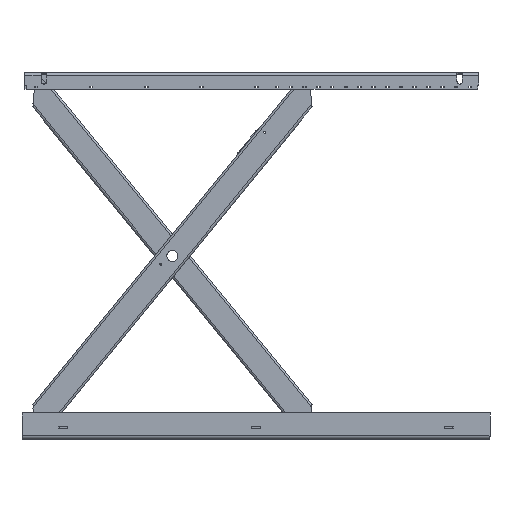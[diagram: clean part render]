
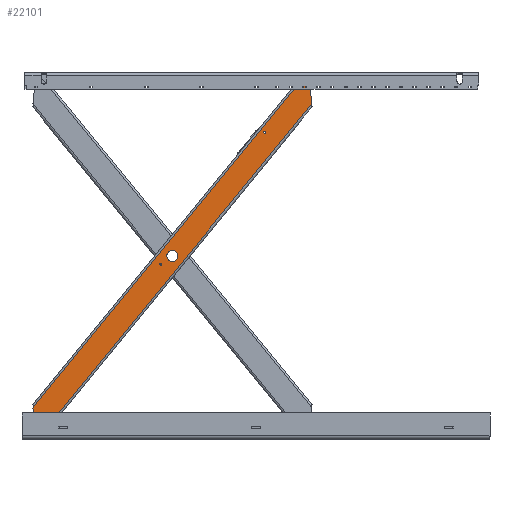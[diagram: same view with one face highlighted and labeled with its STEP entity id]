
A CAD part, front view. The second image highlights one B-rep face of the part: STEP entity #22101.
In plain terms, the highlighted planar face has unit normal (0, -1, 0) as drawn and (-1, 0, 0) by its records, which use the part's own axes.
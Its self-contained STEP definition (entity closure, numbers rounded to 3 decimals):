
#800=FACE_BOUND('',#3735,.T.);
#801=FACE_BOUND('',#3736,.T.);
#802=FACE_BOUND('',#3737,.T.);
#803=FACE_BOUND('',#3738,.T.);
#804=FACE_BOUND('',#3739,.T.);
#1298=PLANE('',#24554);
#2346=FACE_OUTER_BOUND('',#3734,.T.);
#3734=EDGE_LOOP('',(#19831,#19832,#19833,#19834,#19835,#19836,#19837,#19838,
#19839,#19840,#19841,#19842,#19843,#19844,#19845,#19846,#19847,#19848));
#3735=EDGE_LOOP('',(#19849));
#3736=EDGE_LOOP('',(#19850));
#3737=EDGE_LOOP('',(#19851));
#3738=EDGE_LOOP('',(#19852));
#3739=EDGE_LOOP('',(#19853));
#5608=LINE('',#37229,#7514);
#5639=LINE('',#37415,#7545);
#5640=LINE('',#37419,#7546);
#5641=LINE('',#37423,#7547);
#5642=LINE('',#37427,#7548);
#5643=LINE('',#37428,#7549);
#5644=LINE('',#37430,#7550);
#5645=LINE('',#37434,#7551);
#5646=LINE('',#37438,#7552);
#5647=LINE('',#37441,#7553);
#7514=VECTOR('',#30714,10.);
#7545=VECTOR('',#30809,10.);
#7546=VECTOR('',#30812,10.);
#7547=VECTOR('',#30815,10.);
#7548=VECTOR('',#30818,10.);
#7549=VECTOR('',#30819,10.);
#7550=VECTOR('',#30820,10.);
#7551=VECTOR('',#30823,10.);
#7552=VECTOR('',#30826,10.);
#7553=VECTOR('',#30829,10.);
#8794=CIRCLE('',#24508,4.);
#8826=CIRCLE('',#24553,4.);
#8827=CIRCLE('',#24555,5.);
#8828=CIRCLE('',#24556,5.);
#8829=CIRCLE('',#24557,5.);
#8830=CIRCLE('',#24558,5.);
#8831=CIRCLE('',#24559,5.);
#8832=CIRCLE('',#24560,5.);
#8833=CIRCLE('',#24561,7.1);
#8834=CIRCLE('',#24562,7.1);
#8835=CIRCLE('',#24563,20.1);
#8836=CIRCLE('',#24564,3.7);
#8837=CIRCLE('',#24565,3.7);
#10786=VERTEX_POINT('',#37178);
#10787=VERTEX_POINT('',#37180);
#10809=VERTEX_POINT('',#37228);
#10852=VERTEX_POINT('',#37408);
#10853=VERTEX_POINT('',#37410);
#10854=VERTEX_POINT('',#37414);
#10855=VERTEX_POINT('',#37416);
#10856=VERTEX_POINT('',#37418);
#10857=VERTEX_POINT('',#37420);
#10858=VERTEX_POINT('',#37422);
#10859=VERTEX_POINT('',#37424);
#10860=VERTEX_POINT('',#37426);
#10861=VERTEX_POINT('',#37429);
#10862=VERTEX_POINT('',#37431);
#10863=VERTEX_POINT('',#37433);
#10864=VERTEX_POINT('',#37435);
#10865=VERTEX_POINT('',#37437);
#10866=VERTEX_POINT('',#37439);
#10867=VERTEX_POINT('',#37442);
#10868=VERTEX_POINT('',#37444);
#10869=VERTEX_POINT('',#37446);
#10870=VERTEX_POINT('',#37448);
#10871=VERTEX_POINT('',#37450);
#13813=EDGE_CURVE('',#10786,#10787,#8794,.T.);
#13837=EDGE_CURVE('',#10787,#10809,#5608,.T.);
#13892=EDGE_CURVE('',#10852,#10853,#8826,.T.);
#13894=EDGE_CURVE('',#10786,#10854,#5639,.T.);
#13895=EDGE_CURVE('',#10855,#10854,#8827,.T.);
#13896=EDGE_CURVE('',#10856,#10855,#5640,.T.);
#13897=EDGE_CURVE('',#10857,#10856,#8828,.T.);
#13898=EDGE_CURVE('',#10857,#10858,#5641,.T.);
#13899=EDGE_CURVE('',#10858,#10859,#8829,.F.);
#13900=EDGE_CURVE('',#10859,#10860,#5642,.T.);
#13901=EDGE_CURVE('',#10860,#10853,#5643,.T.);
#13902=EDGE_CURVE('',#10852,#10861,#5644,.T.);
#13903=EDGE_CURVE('',#10862,#10861,#8830,.T.);
#13904=EDGE_CURVE('',#10862,#10863,#5645,.T.);
#13905=EDGE_CURVE('',#10864,#10863,#8831,.T.);
#13906=EDGE_CURVE('',#10864,#10865,#5646,.T.);
#13907=EDGE_CURVE('',#10865,#10866,#8832,.F.);
#13908=EDGE_CURVE('',#10809,#10866,#5647,.T.);
#13909=EDGE_CURVE('',#10867,#10867,#8833,.T.);
#13910=EDGE_CURVE('',#10868,#10868,#8834,.T.);
#13911=EDGE_CURVE('',#10869,#10869,#8835,.T.);
#13912=EDGE_CURVE('',#10870,#10870,#8836,.T.);
#13913=EDGE_CURVE('',#10871,#10871,#8837,.T.);
#19831=ORIENTED_EDGE('',*,*,#13813,.F.);
#19832=ORIENTED_EDGE('',*,*,#13894,.T.);
#19833=ORIENTED_EDGE('',*,*,#13895,.F.);
#19834=ORIENTED_EDGE('',*,*,#13896,.F.);
#19835=ORIENTED_EDGE('',*,*,#13897,.F.);
#19836=ORIENTED_EDGE('',*,*,#13898,.T.);
#19837=ORIENTED_EDGE('',*,*,#13899,.T.);
#19838=ORIENTED_EDGE('',*,*,#13900,.T.);
#19839=ORIENTED_EDGE('',*,*,#13901,.T.);
#19840=ORIENTED_EDGE('',*,*,#13892,.F.);
#19841=ORIENTED_EDGE('',*,*,#13902,.T.);
#19842=ORIENTED_EDGE('',*,*,#13903,.F.);
#19843=ORIENTED_EDGE('',*,*,#13904,.T.);
#19844=ORIENTED_EDGE('',*,*,#13905,.F.);
#19845=ORIENTED_EDGE('',*,*,#13906,.T.);
#19846=ORIENTED_EDGE('',*,*,#13907,.T.);
#19847=ORIENTED_EDGE('',*,*,#13908,.F.);
#19848=ORIENTED_EDGE('',*,*,#13837,.F.);
#19849=ORIENTED_EDGE('',*,*,#13909,.T.);
#19850=ORIENTED_EDGE('',*,*,#13910,.T.);
#19851=ORIENTED_EDGE('',*,*,#13911,.T.);
#19852=ORIENTED_EDGE('',*,*,#13912,.T.);
#19853=ORIENTED_EDGE('',*,*,#13913,.T.);
#22101=ADVANCED_FACE('',(#2346,#800,#801,#802,#803,#804),#1298,.T.);
#24508=AXIS2_PLACEMENT_3D('',#37181,#30673,#30674);
#24553=AXIS2_PLACEMENT_3D('',#37411,#30804,#30805);
#24554=AXIS2_PLACEMENT_3D('',#37413,#30807,#30808);
#24555=AXIS2_PLACEMENT_3D('',#37417,#30810,#30811);
#24556=AXIS2_PLACEMENT_3D('',#37421,#30813,#30814);
#24557=AXIS2_PLACEMENT_3D('',#37425,#30816,#30817);
#24558=AXIS2_PLACEMENT_3D('',#37432,#30821,#30822);
#24559=AXIS2_PLACEMENT_3D('',#37436,#30824,#30825);
#24560=AXIS2_PLACEMENT_3D('',#37440,#30827,#30828);
#24561=AXIS2_PLACEMENT_3D('',#37443,#30830,#30831);
#24562=AXIS2_PLACEMENT_3D('',#37445,#30832,#30833);
#24563=AXIS2_PLACEMENT_3D('',#37447,#30834,#30835);
#24564=AXIS2_PLACEMENT_3D('',#37449,#30836,#30837);
#24565=AXIS2_PLACEMENT_3D('',#37451,#30838,#30839);
#30673=DIRECTION('center_axis',(1.,0.,0.));
#30674=DIRECTION('ref_axis',(0.,0.924,-0.383));
#30714=DIRECTION('',(0.,0.,1.));
#30804=DIRECTION('center_axis',(1.,0.,0.));
#30805=DIRECTION('ref_axis',(0.,-0.924,0.383));
#30807=DIRECTION('center_axis',(-1.,0.,0.));
#30808=DIRECTION('ref_axis',(0.,0.,1.));
#30809=DIRECTION('',(0.,-0.707,-0.707));
#30810=DIRECTION('center_axis',(1.,0.,0.));
#30811=DIRECTION('ref_axis',(0.,0.383,-0.924));
#30812=DIRECTION('',(0.,1.,0.));
#30813=DIRECTION('center_axis',(1.,0.,0.));
#30814=DIRECTION('ref_axis',(0.,-0.707,-0.707));
#30815=DIRECTION('',(0.,0.,1.));
#30816=DIRECTION('center_axis',(-1.,0.,0.));
#30817=DIRECTION('ref_axis',(0.,0.707,0.707));
#30818=DIRECTION('',(0.,0.,1.));
#30819=DIRECTION('',(0.,0.,1.));
#30820=DIRECTION('',(0.,0.707,0.707));
#30821=DIRECTION('center_axis',(1.,0.,0.));
#30822=DIRECTION('ref_axis',(0.,-0.383,0.924));
#30823=DIRECTION('',(0.,1.,0.));
#30824=DIRECTION('center_axis',(1.,0.,0.));
#30825=DIRECTION('ref_axis',(0.,0.707,0.707));
#30826=DIRECTION('',(0.,0.,-1.));
#30827=DIRECTION('center_axis',(-1.,0.,0.));
#30828=DIRECTION('ref_axis',(0.,-0.707,-0.707));
#30829=DIRECTION('',(0.,0.,1.));
#30830=DIRECTION('center_axis',(1.,0.,0.));
#30831=DIRECTION('ref_axis',(0.,0.,1.));
#30832=DIRECTION('center_axis',(1.,0.,0.));
#30833=DIRECTION('ref_axis',(0.,0.,1.));
#30834=DIRECTION('center_axis',(1.,0.,0.));
#30835=DIRECTION('ref_axis',(0.,0.,1.));
#30836=DIRECTION('center_axis',(1.,0.,0.));
#30837=DIRECTION('ref_axis',(0.,0.,1.));
#30838=DIRECTION('center_axis',(1.,0.,0.));
#30839=DIRECTION('ref_axis',(0.,0.,
1.));
#37178=CARTESIAN_POINT('',(-30.,40.828,55.828));
#37180=CARTESIAN_POINT('',(-30.,42.,58.657));
#37181=CARTESIAN_POINT('Origin',(-30.,38.,58.657));
#37228=CARTESIAN_POINT('',(-30.,42.,61.));
#37229=CARTESIAN_POINT('',(-30.,42.,0.));
#37408=CARTESIAN_POINT('',(-30.,-40.828,1554.172));
#37410=CARTESIAN_POINT('',(-30.,-42.,1551.343));
#37411=CARTESIAN_POINT('Origin',(-30.,-38.,1551.343));
#37413=CARTESIAN_POINT('Origin',(-30.,-42.,0.));
#37414=CARTESIAN_POINT('',(-30.,-13.536,1.464));
#37415=CARTESIAN_POINT('',(-30.,-21.75,-6.75));
#37416=CARTESIAN_POINT('',(-30.,-17.071,0.));
#37417=CARTESIAN_POINT('Origin',(-30.,-17.071,5.));
#37418=CARTESIAN_POINT('',(-30.,-36.,0.));
#37419=CARTESIAN_POINT('',(-30.,-21.,0.));
#37420=CARTESIAN_POINT('',(-30.,-41.,5.));
#37421=CARTESIAN_POINT('Origin',(-30.,-36.,5.));
#37422=CARTESIAN_POINT('',(-30.,-41.,45.));
#37423=CARTESIAN_POINT('',(-30.,-41.,25.));
#37424=CARTESIAN_POINT('',(-30.,-42.,48.));
#37425=CARTESIAN_POINT('Origin',(-30.,-46.,45.));
#37426=CARTESIAN_POINT('',(-30.,-42.,1549.));
#37427=CARTESIAN_POINT('',(-30.,-42.,0.));
#37428=CARTESIAN_POINT('',(-30.,-42.,0.));
#37429=CARTESIAN_POINT('',(-30.,13.536,1608.536));
#37430=CARTESIAN_POINT('',(-30.,-401.75,1193.25));
#37431=CARTESIAN_POINT('',(-30.,17.071,1610.));
#37432=CARTESIAN_POINT('Origin',(-30.,17.071,1605.));
#37433=CARTESIAN_POINT('',(-30.,36.,1610.));
#37434=CARTESIAN_POINT('',(-30.,-21.,1610.));
#37435=CARTESIAN_POINT('',(-30.,41.,1605.));
#37436=CARTESIAN_POINT('Origin',(-30.,36.,1605.));
#37437=CARTESIAN_POINT('',(-30.,41.,1565.));
#37438=CARTESIAN_POINT('',(-30.,41.,780.));
#37439=CARTESIAN_POINT('',(-30.,42.,1562.));
#37440=CARTESIAN_POINT('Origin',(-30.,46.,1565.));
#37441=CARTESIAN_POINT('',(-30.,42.,0.));
#37442=CARTESIAN_POINT('',(-30.,-25.,22.1));
#37443=CARTESIAN_POINT('Origin',(-30.,-25.,15.));
#37444=CARTESIAN_POINT('',(-30.,25.,1602.1));
#37445=CARTESIAN_POINT('Origin',(-30.,25.,1595.));
#37446=CARTESIAN_POINT('',(-30.,0.,825.1));
#37447=CARTESIAN_POINT('Origin',(-30.,0.,805.));
#37448=CARTESIAN_POINT('',(-30.,14.,758.7));
#37449=CARTESIAN_POINT('Origin',(-30.,14.,755.));
#37450=CARTESIAN_POINT('',(-30.,25.,1368.7));
#37451=CARTESIAN_POINT('Origin',(-30.,25.,1365.));
